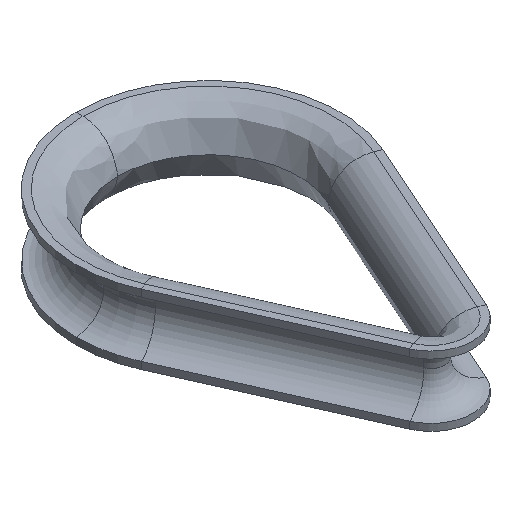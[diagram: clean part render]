
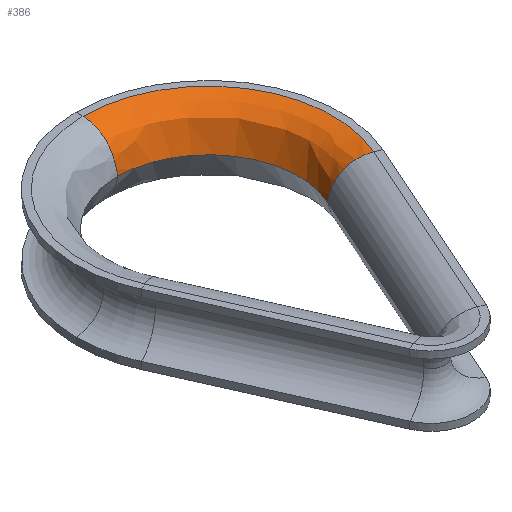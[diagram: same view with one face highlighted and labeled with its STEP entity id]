
A CAD part, isometric view. The second image highlights one B-rep face of the part: STEP entity #386.
In plain terms, the highlighted free-form (B-spline) face has degree [2, 3] with [3, 4] control points.
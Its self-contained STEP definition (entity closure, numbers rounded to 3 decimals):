
#30 = AXIS2_PLACEMENT_3D ( 'NONE', #378, #807, #908 ) ;
#42 = VERTEX_POINT ( 'NONE', #683 ) ;
#44 = CARTESIAN_POINT ( 'NONE',  ( 11.879, -5.281, 0. ) ) ;
#48 = CARTESIAN_POINT ( 'NONE',  ( 16.448, -7.312, 5. ) ) ;
#139 = CARTESIAN_POINT ( 'NONE',  ( 14.445, 18., 5. ) ) ;
#167 = CIRCLE ( 'NONE', #346, 13. ) ;
#179 = DIRECTION ( 'NONE',  ( 0., 0., -1. ) ) ;
#187 = EDGE_LOOP ( 'NONE', ( #1117, #494, #518, #214 ) ) ;
#214 = ORIENTED_EDGE ( 'NONE', *, *, #936, .T. ) ;
#234 = FACE_OUTER_BOUND ( 'NONE', #187, .T. ) ;
#281 = CARTESIAN_POINT ( 'NONE',  ( 16.448, -7.313, 5. ) ) ;
#317 = CARTESIAN_POINT ( 'NONE',  ( 22.316, 5.887, 5. ) ) ;
#326 = B_SPLINE_CURVE_WITH_KNOTS ( 'NONE', 2,
 ( #384, #743, #1116 ),
 .UNSPECIFIED., .F., .F.,
 ( 3, 3 ),
 ( 0., 1. ),
 .UNSPECIFIED. ) ;
#329 = VERTEX_POINT ( 'NONE', #344 ) ;
#344 = CARTESIAN_POINT ( 'NONE',  ( 11.879, -5.281, 0. ) ) ;
#346 = AXIS2_PLACEMENT_3D ( 'NONE', #1011, #179, #815 ) ;
#378 = CARTESIAN_POINT ( 'NONE',  ( 0., 0., 5. ) ) ;
#384 = CARTESIAN_POINT ( 'NONE',  ( 0., 18., 5. ) ) ;
#386 = ADVANCED_FACE ( 'NONE', ( #234 ), #1147, .T. ) ;
#423 = CARTESIAN_POINT ( 'NONE',  ( 11.08, 13.807, 4.654 ) ) ;
#427 = VERTEX_POINT ( 'NONE', #927 ) ;
#436 = EDGE_CURVE ( 'NONE', #427, #467, #786, .T. ) ;
#467 = VERTEX_POINT ( 'NONE', #281 ) ;
#494 = ORIENTED_EDGE ( 'NONE', *, *, #1180, .F. ) ;
#518 = ORIENTED_EDGE ( 'NONE', *, *, #436, .F. ) ;
#533 = EDGE_CURVE ( 'NONE', #42, #329, #167, .T. ) ;
#598 = CARTESIAN_POINT ( 'NONE',  ( 10.433, 13., 0. ) ) ;
#682 = CARTESIAN_POINT ( 'NONE',  ( 12.616, -5.609, 4.654 ) ) ;
#683 = CARTESIAN_POINT ( 'NONE',  ( 0., 13., 0. ) ) ;
#713 = CARTESIAN_POINT ( 'NONE',  ( 17.117, 4.516, 4.654 ) ) ;
#743 = CARTESIAN_POINT ( 'NONE',  ( 0., 13.807, 4.654 ) ) ;
#771 = CARTESIAN_POINT ( 'NONE',  ( 16.448, -7.313, 5. ) ) ;
#786 = CIRCLE ( 'NONE', #30, 18. ) ;
#807 = DIRECTION ( 'NONE',  ( 0., 0., -1. ) ) ;
#815 = DIRECTION ( 'NONE',  ( 0., 1., 0. ) ) ;
#873 = CARTESIAN_POINT ( 'NONE',  ( 16.117, 4.252, 0. ) ) ;
#893 = B_SPLINE_CURVE_WITH_KNOTS ( 'NONE', 2,
 ( #771, #682, #1075 ),
 .UNSPECIFIED., .F., .F.,
 ( 3, 3 ),
 ( 0., 1. ),
 .UNSPECIFIED. ) ;
#908 = DIRECTION ( 'NONE',  ( 0., 1., 0. ) ) ;
#927 = CARTESIAN_POINT ( 'NONE',  ( 0., 18., 5. ) ) ;
#936 = EDGE_CURVE ( 'NONE', #427, #42, #326, .T. ) ;
#989 = CARTESIAN_POINT ( 'NONE',  ( 0., 13.807, 4.654 ) ) ;
#996 = CARTESIAN_POINT ( 'NONE',  ( 0., 18., 5. ) ) ;
#1011 = CARTESIAN_POINT ( 'NONE',  ( 0., 0., 0. ) ) ;
#1075 = CARTESIAN_POINT ( 'NONE',  ( 11.879, -5.281, 0. ) ) ;
#1078 = CARTESIAN_POINT ( 'NONE',  ( 0., 13., 0. ) ) ;
#1086 = CARTESIAN_POINT ( 'NONE',  ( 12.616, -5.609, 4.654 ) ) ;
#1116 = CARTESIAN_POINT ( 'NONE',  ( 0., 13., 0. ) ) ;
#1117 = ORIENTED_EDGE ( 'NONE', *, *, #533, .T. ) ;
#1147 =( BOUNDED_SURFACE ( )  B_SPLINE_SURFACE ( 2, 3, ( 
 ( #996, #139, #317, #48 ),
 ( #989, #423, #713, #1086 ),
 ( #1078, #598, #873, #44 ) ),
 .UNSPECIFIED., .F., .F., .F. ) 
 B_SPLINE_SURFACE_WITH_KNOTS ( ( 3, 3 ),
 ( 4, 4 ),
 ( 0., 1. ),
 ( 0., 1. ),
 .UNSPECIFIED. ) 
 GEOMETRIC_REPRESENTATION_ITEM ( )  RATIONAL_B_SPLINE_SURFACE ( (
 ( 1., 0.697, 0.697, 1.),
 ( 1., 0.697, 0.697, 1.),
 ( 1., 0.697, 0.697, 1.) ) ) 
 REPRESENTATION_ITEM ( '' )  SURFACE ( )  );
#1180 = EDGE_CURVE ( 'NONE', #467, #329, #893, .T. ) ;
